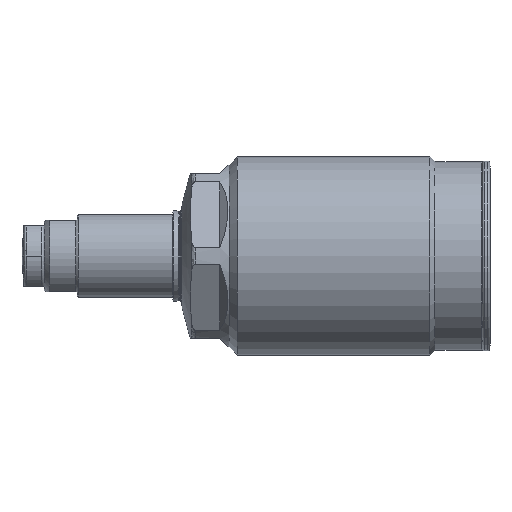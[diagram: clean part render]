
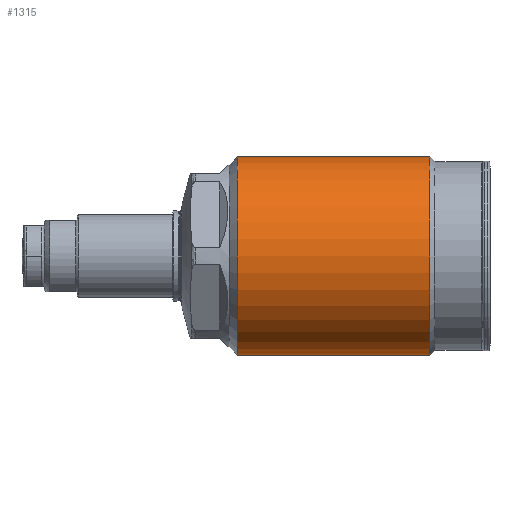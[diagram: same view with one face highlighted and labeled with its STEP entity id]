
A CAD part, left-side view. The second image highlights one B-rep face of the part: STEP entity #1315.
In plain terms, the highlighted cylindrical face has radius 18 mm (diameter 36 mm), a partial arc.
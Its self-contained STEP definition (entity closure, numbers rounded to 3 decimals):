
#522=CYLINDRICAL_SURFACE('',#5878,18.);
#780=LINE('',#9080,#1081);
#781=LINE('',#9084,#1082);
#1081=VECTOR('',#7154,1.);
#1082=VECTOR('',#7157,1.);
#1315=ADVANCED_FACE('',(#1741),#522,.T.);
#1741=FACE_OUTER_BOUND('',#2104,.T.);
#2104=EDGE_LOOP('',(#2998,#2999,#3000,#3001));
#2998=ORIENTED_EDGE('',*,*,#4708,.T.);
#2999=ORIENTED_EDGE('',*,*,#4776,.T.);
#3000=ORIENTED_EDGE('',*,*,#4710,.F.);
#3001=ORIENTED_EDGE('',*,*,#4775,.F.);
#4156=VERTEX_POINT('',#9075);
#4157=VERTEX_POINT('',#9077);
#4158=VERTEX_POINT('',#9081);
#4159=VERTEX_POINT('',#9083);
#4708=EDGE_CURVE('',#4158,#4156,#780,.T.);
#4710=EDGE_CURVE('',#4159,#4157,#781,.T.);
#4775=EDGE_CURVE('',#4158,#4159,#5281,.T.);
#4776=EDGE_CURVE('',#4156,#4157,#5282,.T.);
#5281=CIRCLE('',#5875,18.);
#5282=CIRCLE('',#5877,18.);
#5875=AXIS2_PLACEMENT_3D('',#9380,#7310,#7311);
#5877=AXIS2_PLACEMENT_3D('',#9382,#7314,#7315);
#5878=AXIS2_PLACEMENT_3D('',#9383,#7316,#7317);
#7154=DIRECTION('',(0.,1.,0.));
#7157=DIRECTION('',(0.,1.,0.));
#7310=DIRECTION('',(0.,-1.,0.));
#7311=DIRECTION('',(0.,0.,-1.));
#7314=DIRECTION('',(0.,-1.,0.));
#7315=DIRECTION('',(0.,0.,-1.));
#7316=DIRECTION('',(0.,-1.,0.));
#7317=DIRECTION('',(0.,0.,-1.));
#9075=CARTESIAN_POINT('',(0.,50.36,18.));
#9077=CARTESIAN_POINT('',(0.,50.36,-18.));
#9080=CARTESIAN_POINT('',(0.,0.,18.));
#9081=CARTESIAN_POINT('',(0.,15.36,18.));
#9083=CARTESIAN_POINT('',(0.,15.36,-18.));
#9084=CARTESIAN_POINT('',(0.,0.,-18.));
#9380=CARTESIAN_POINT('',(0.,15.36,0.));
#9382=CARTESIAN_POINT('',(0.,50.36,0.));
#9383=CARTESIAN_POINT('',(0.,0.,0.));
